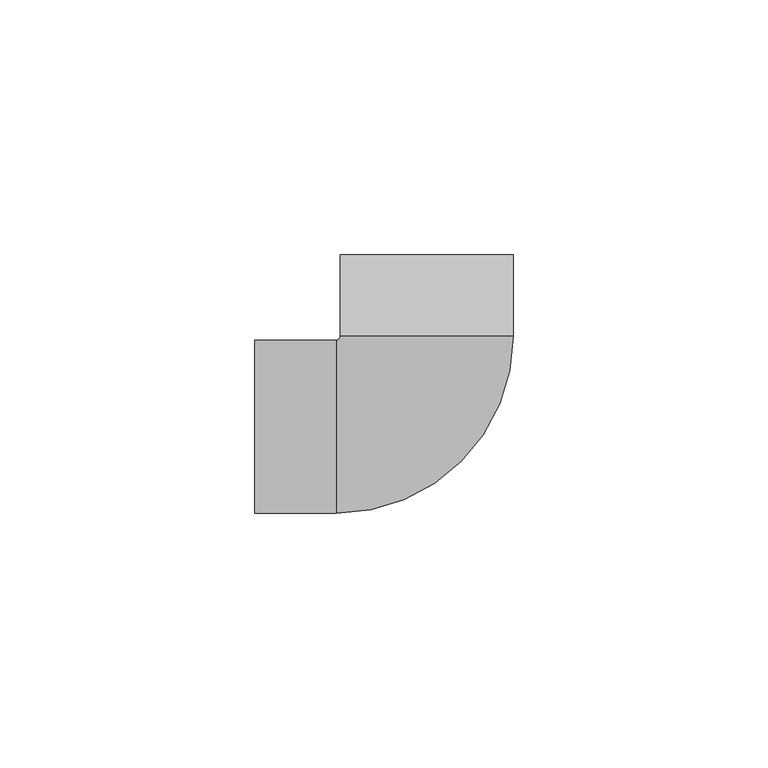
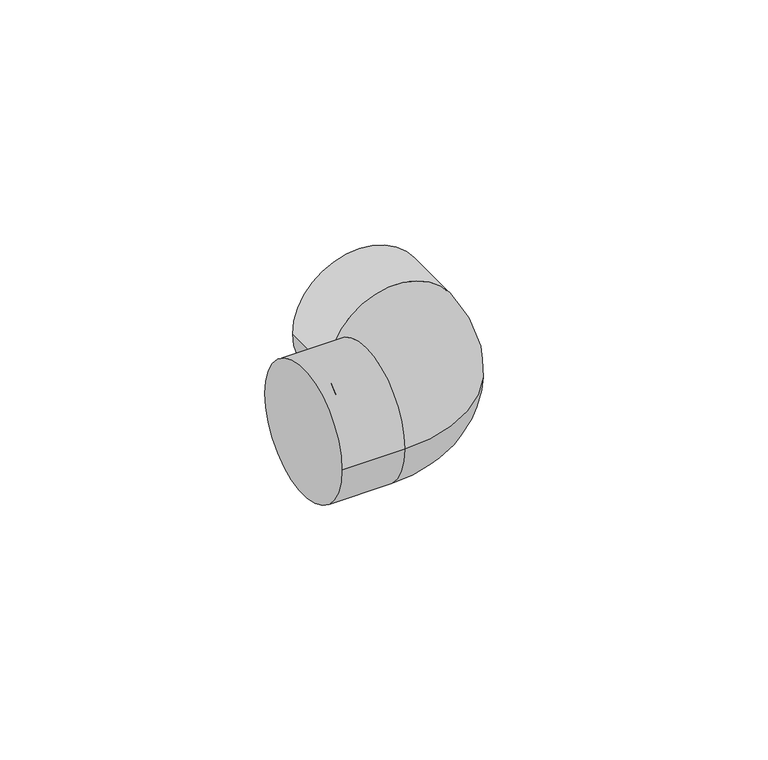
"""IFC4 building model written with IfcOpenShell, lengths in millimetres: pipe fitting geometry, NIRON RED termofusion codo : Estándar."""

from ifc_helpers import new_model, si_unit, point, frame, origin, place, context, project, spatial, circle_curve, ellipse_curve, trimmed, source, transform, mapped, element, save
from ifc_brep_helpers import plane_surface, cylinder_surface, revolved_surface, advanced_brep


def pipe_fitting_e9a67c6d(model_context):
    return source(origin(), model_context, "Body", "AdvancedBrep", [
        advanced_brep(
        [(-33.79375, -17.0, 0.0), (-33.79375, 17.0, 0.0), (-17.79375, -17.0, 0.0), (-17.79375, 17.0, 0.0), (-17.0, 17.79375, 0.0), (17.0, 17.79375, 0.0), (0.0, 17.79375, 17.0), (0.0, 17.79375, -17.0), (17.0, 33.79375, 0.0), (-17.0, 33.79375, 0.0)],
        [
            (0, 1, circle_curve(frame((-33.79375, 0.0, 0.0), z_axis=(-1.0, 0.0, 0.0), x_axis=(0.0, 1.0, 0.0)), 17.0)),
            (1, 0, circle_curve(frame((-33.79375, 0.0, 0.0), z_axis=(-1.0, 0.0, 0.0), x_axis=(0.0, 1.0, 0.0)), 17.0)),
            (0, 2),
            (2, 3, circle_curve(frame((-17.79375, 0.0, 0.0), z_axis=(-1.0, 0.0, 0.0), x_axis=(0.0, 1.0, 0.0)), 17.0)),
            (3, 1),
            (3, 2, circle_curve(frame((-17.79375, 0.0, 0.0), z_axis=(-1.0, 0.0, 0.0), x_axis=(0.0, 1.0, 0.0)), 17.0)),
            (4, 3, circle_curve(frame((-17.79375, 17.79375, 0.0), z_axis=(0.0, 0.0, -1.0), x_axis=(0.0, -1.0, 0.0)), 0.79375)),
            (2, 5, circle_curve(frame((-17.79375, 17.79375, 0.0), z_axis=(0.0, 0.0, 1.0), x_axis=(0.0, -1.0, 0.0)), 34.79375)),
            (5, 6, circle_curve(frame((0.0, 17.79375, 0.0), z_axis=(0.0, -1.0, 0.0), x_axis=(-1.0, 0.0, 0.0)), 17.0)),
            (6, 4, circle_curve(frame((0.0, 17.79375, 0.0), z_axis=(0.0, -1.0, 0.0), x_axis=(-1.0, 0.0, 0.0)), 17.0)),
            (4, 7, circle_curve(frame((0.0, 17.79375, 0.0), z_axis=(0.0, -1.0, 0.0), x_axis=(-1.0, 0.0, 0.0)), 17.0)),
            (7, 5, circle_curve(frame((0.0, 17.79375, 0.0), z_axis=(0.0, -1.0, 0.0), x_axis=(-1.0, 0.0, 0.0)), 17.0)),
            (8, 9, circle_curve(frame((0.0, 33.79375, 0.0), z_axis=(0.0, 1.0, 0.0), x_axis=(-1.0, 0.0, 0.0)), 17.0)),
            (9, 8, circle_curve(frame((0.0, 33.79375, 0.0), z_axis=(0.0, 1.0, 0.0), x_axis=(-1.0, 0.0, 0.0)), 17.0)),
            (9, 4),
            (5, 8),
        ],
        [
            plane_surface(frame((-33.79375, 0.0, 0.0), z_axis=(-1.0, 0.0, 0.0), x_axis=(0.0, 0.0, 1.0))),
            cylinder_surface(frame((-33.79375, 0.0, 0.0), z_axis=(-1.0, 0.0, 0.0), x_axis=(0.0, 1.0, 0.0)), 17.0),
            revolved_surface(trimmed(ellipse_curve(frame((-17.79375, 0.0, 0.0), z_axis=(-1.0, 0.0, 0.0), x_axis=(0.0, 1.0, 0.0)), 17.0, 17.0), [point((-17.79375, -17.0, 0.0))], [point((-17.79375, 17.0, 0.0))], True, "CARTESIAN"), (-17.79375, 17.79375, 0.0), (0.0, 0.0, 1.0)),
            revolved_surface(trimmed(ellipse_curve(frame((-17.79375, 0.0, 0.0), z_axis=(-1.0, 0.0, 0.0), x_axis=(0.0, 1.0, 0.0)), 17.0, 17.0), [point((-17.79375, 17.0, 0.0))], [point((-17.79375, -17.0, 0.0))], True, "CARTESIAN"), (-17.79375, 17.79375, 0.0), (0.0, 0.0, 1.0)),
            plane_surface(frame((0.0, 33.79375, 0.0), z_axis=(0.0, 1.0, 0.0), x_axis=(0.0, 0.0, 1.0))),
            cylinder_surface(frame((0.0, 17.79375, 0.0), z_axis=(0.0, -1.0, 0.0), x_axis=(-1.0, 0.0, 0.0)), 17.0),
        ],
        [
            (0, [[1, 2]]),
            (1, [[-1, 3, 4, 5]]),
            (1, [[-2, -5, 6, -3]]),
            (2, [[7, -4, 8, 9, 10]]),
            (3, [[-7, 11, 12, -8, -6]]),
            (4, [[13, 14]]),
            (5, [[-14, 15, -10, -9, 16]]),
            (5, [[-13, -16, -12, -11, -15]]),
        ],
    ),
    ])


if __name__ == "__main__":
    model = new_model("IFC4")
    model_context = context("Model", 3, world=origin())
    ifc_project = project(units=[si_unit("LENGTHUNIT", "METRE", prefix="MILLI")], contexts=[model_context])
    site = spatial("IfcSite", under=ifc_project)
    building = spatial("IfcBuilding", under=site)
    placement = place(None, origin())
    pipe_fitting_shape = pipe_fitting_e9a67c6d(model_context)
    element("IfcPipeFitting", 1, ObjectType="NIRON RED termofusion codo : Estándar", at=placement, inside=building, context=model_context, shape_type="MappedRepresentation", body=[
        mapped(pipe_fitting_shape, transform((0.0, 0.0, 0.0), x_axis=(1.0, 0.0, 0.0), y_axis=(0.0, 1.0, 0.0), z_axis=(0.0, 0.0, 1.0))),
    ])
    save(model, "model.ifc")
